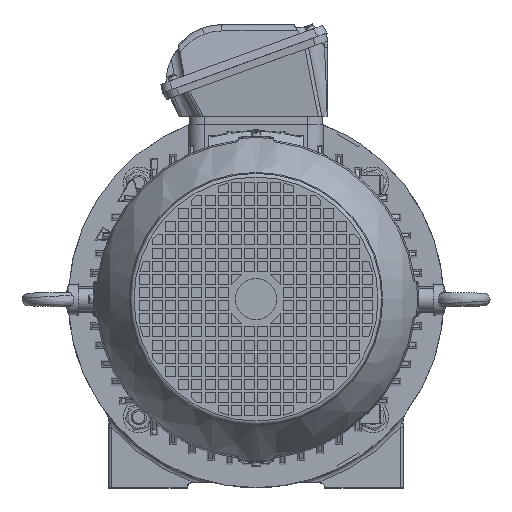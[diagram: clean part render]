
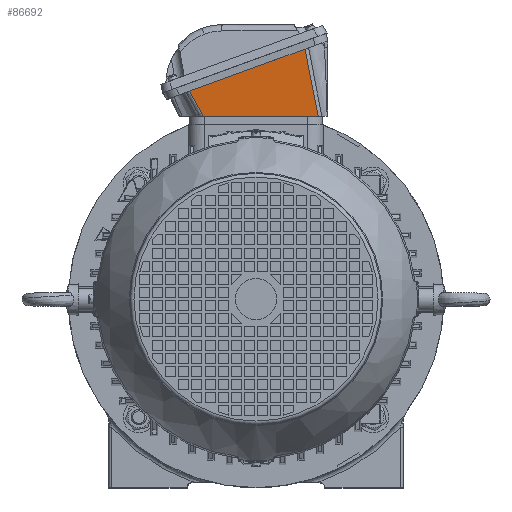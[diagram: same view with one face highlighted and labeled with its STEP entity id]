
A CAD part, top view. The second image highlights one B-rep face of the part: STEP entity #86692.
In plain terms, the highlighted planar face has unit normal (0.036, -0.098, 0.995).
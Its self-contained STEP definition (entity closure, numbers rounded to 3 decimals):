
#2522=B_SPLINE_CURVE_WITH_KNOTS('',3,(#148321,#148322,#148323,#148324),
 .UNSPECIFIED.,.F.,.F.,(4,4),(0.,0.023),.UNSPECIFIED.);
#2523=B_SPLINE_CURVE_WITH_KNOTS('',3,(#148325,#148326,#148327,#148328,#148329,
#148330,#148331,#148332,#148333,#148334,#148335,#148336,#148337),
 .UNSPECIFIED.,.F.,.F.,(4,3,3,3,4),(0.,0.027,0.027,
0.05,0.055),.UNSPECIFIED.);
#14020=LINE('',#148223,#20837);
#14024=LINE('',#148320,#20841);
#20837=VECTOR('',#106787,1000.);
#20841=VECTOR('',#106801,1000.);
#26050=FACE_OUTER_BOUND('',#31212,.T.);
#31212=EDGE_LOOP('',(#68865,#68866,#68867,#68868));
#40654=VERTEX_POINT('',#148221);
#40655=VERTEX_POINT('',#148222);
#40670=VERTEX_POINT('',#148318);
#40671=VERTEX_POINT('',#148319);
#50656=EDGE_CURVE('',#40654,#40655,#14020,.T.);
#50672=EDGE_CURVE('',#40670,#40671,#14024,.T.);
#50673=EDGE_CURVE('',#40671,#40655,#2522,.T.);
#50674=EDGE_CURVE('',#40654,#40670,#2523,.T.);
#68865=ORIENTED_EDGE('',*,*,#50672,.T.);
#68866=ORIENTED_EDGE('',*,*,#50673,.T.);
#68867=ORIENTED_EDGE('',*,*,#50656,.F.);
#68868=ORIENTED_EDGE('',*,*,#50674,.T.);
#83420=PLANE('',#92326);
#86692=ADVANCED_FACE('',(#26050),#83420,.T.);
#92326=AXIS2_PLACEMENT_3D('',#148317,#106799,#106800);
#106787=DIRECTION('',(-0.999,0.,0.036));
#106799=DIRECTION('center_axis',(0.036,-0.098,
0.995));
#106800=DIRECTION('ref_axis',(0.,0.995,0.098));
#106801=DIRECTION('',(-0.94,-0.342,0.));
#148221=CARTESIAN_POINT('',(49.714,146.5,332.648));
#148222=CARTESIAN_POINT('',(-41.969,146.5,335.944));
#148223=CARTESIAN_POINT('',(52.77,146.5,332.539));
#148317=CARTESIAN_POINT('Origin',(53.,211.5,338.95));
#148318=CARTESIAN_POINT('',(39.196,200.091,338.319));
#148319=CARTESIAN_POINT('',(-53.103,166.497,338.319));
#148320=CARTESIAN_POINT('',(55.052,205.862,338.319));
#148321=CARTESIAN_POINT('Ctrl Pts',(-53.103,166.497,
338.319));
#148322=CARTESIAN_POINT('Ctrl Pts',(-49.364,159.847,
337.528));
#148323=CARTESIAN_POINT('Ctrl Pts',(-45.658,153.178,
336.736));
#148324=CARTESIAN_POINT('Ctrl Pts',(-41.969,146.5,335.944));
#148325=CARTESIAN_POINT('Ctrl Pts',(49.714,146.5,332.648));
#148326=CARTESIAN_POINT('Ctrl Pts',(47.933,155.339,333.585));
#148327=CARTESIAN_POINT('Ctrl Pts',(46.165,164.18,334.522));
#148328=CARTESIAN_POINT('Ctrl Pts',(44.422,173.026,335.459));
#148329=CARTESIAN_POINT('Ctrl Pts',(44.406,173.111,335.467));
#148330=CARTESIAN_POINT('Ctrl Pts',(44.389,173.195,335.476));
#148331=CARTESIAN_POINT('Ctrl Pts',(44.373,173.279,335.485));
#148332=CARTESIAN_POINT('Ctrl Pts',(42.919,180.657,336.266));
#148333=CARTESIAN_POINT('Ctrl Pts',(41.482,188.038,337.047));
#148334=CARTESIAN_POINT('Ctrl Pts',(40.078,195.426,337.827));
#148335=CARTESIAN_POINT('Ctrl Pts',(39.782,196.981,337.991));
#148336=CARTESIAN_POINT('Ctrl Pts',(39.488,198.535,338.155));
#148337=CARTESIAN_POINT('Ctrl Pts',(39.196,200.091,338.319));
